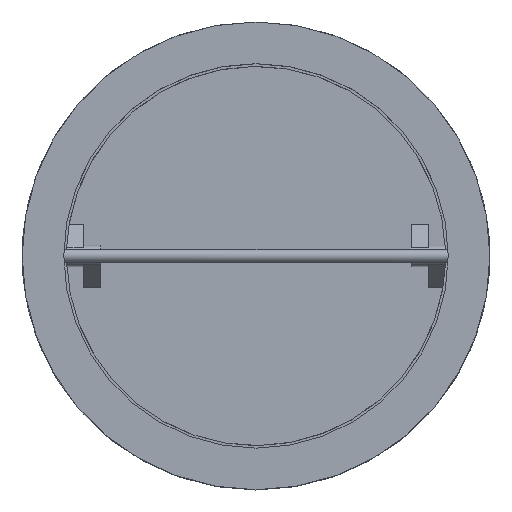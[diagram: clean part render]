
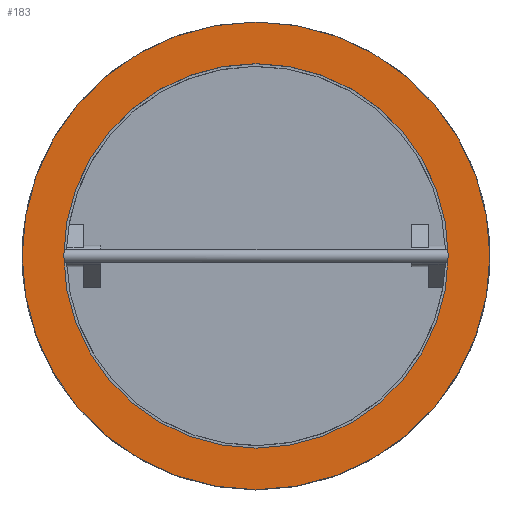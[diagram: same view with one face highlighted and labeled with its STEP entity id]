
A CAD part, top view. The second image highlights one B-rep face of the part: STEP entity #183.
In plain terms, the highlighted planar face has unit normal (0, 0, 1).
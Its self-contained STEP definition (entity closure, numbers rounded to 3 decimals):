
#183=ADVANCED_FACE('',(#862,#864),#866,.T.);
#862=FACE_BOUND('',#863,.T.);
#863=EDGE_LOOP('',(#1411));
#864=FACE_BOUND('',#865,.T.);
#865=EDGE_LOOP('',(#1412));
#866=PLANE('',#867);
#867=AXIS2_PLACEMENT_3D('',#868,#869,#870);
#868=CARTESIAN_POINT('',(0.,0.,127.));
#869=DIRECTION('',(0.,0.,1.));
#870=DIRECTION('',(0.,-1.,0.));
#1411=ORIENTED_EDGE('',*,*,#1761,.T.);
#1412=ORIENTED_EDGE('',*,*,#1775,.F.);
#1761=EDGE_CURVE('',#1985,#1985,#1986,.T.);
#1775=EDGE_CURVE('',#2013,#2013,#2014,.T.);
#1985=VERTEX_POINT('',#2402);
#1986=CIRCLE('',#2403,219.);
#2013=VERTEX_POINT('',#2466);
#2014=CIRCLE('',#2467,180.);
#2402=CARTESIAN_POINT('',(0.,-219.,127.));
#2403=AXIS2_PLACEMENT_3D('',#2404,#2405,#2406);
#2404=CARTESIAN_POINT('',(0.,0.,127.));
#2405=DIRECTION('',(0.,0.,1.));
#2406=DIRECTION('',(0.,-1.,0.));
#2466=CARTESIAN_POINT('',(0.,-180.,127.));
#2467=AXIS2_PLACEMENT_3D('',#2468,#2469,#2470);
#2468=CARTESIAN_POINT('',(0.,0.,127.));
#2469=DIRECTION('',(0.,0.,1.));
#2470=DIRECTION('',(0.,-1.,0.));
